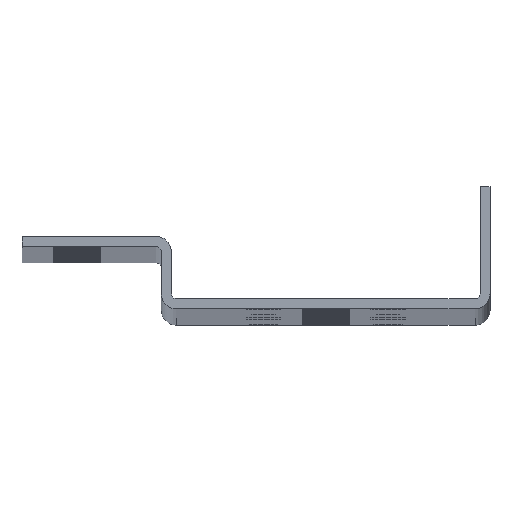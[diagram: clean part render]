
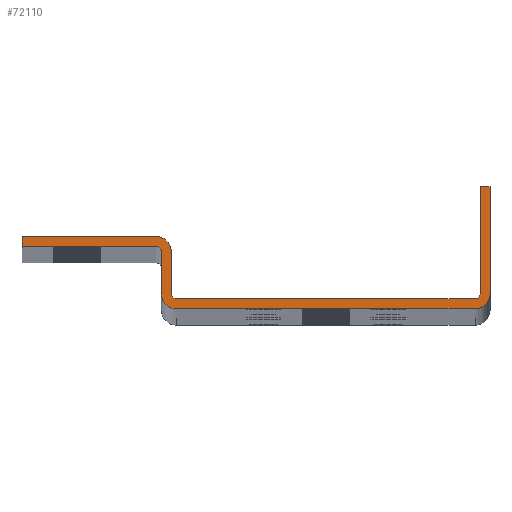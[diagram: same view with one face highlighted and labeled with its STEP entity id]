
A CAD part, top view. The second image highlights one B-rep face of the part: STEP entity #72110.
In plain terms, the highlighted planar face has unit normal (0, 0, 1).
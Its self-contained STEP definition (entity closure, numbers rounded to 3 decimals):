
#276 = CARTESIAN_POINT ( 'NONE',  ( -63., 2., 0. ) ) ;
#347 = VERTEX_POINT ( 'NONE', #26352 ) ;
#844 = EDGE_CURVE ( 'NONE', #61402, #67812, #73531, .T. ) ;
#913 = EDGE_CURVE ( 'NONE', #32787, #13218, #51179, .T. ) ;
#921 = CARTESIAN_POINT ( 'NONE',  ( -94., 14.5, 0. ) ) ;
#1122 = VECTOR ( 'NONE', #42311, 1000. ) ;
#3755 = VERTEX_POINT ( 'NONE', #72111 ) ;
#3883 = AXIS2_PLACEMENT_3D ( 'NONE', #50224, #9377, #57120 ) ;
#4047 = DIRECTION ( 'NONE',  ( 0., -1., 0. ) ) ;
#4213 = DIRECTION ( 'NONE',  ( 0., -1., 0. ) ) ;
#4360 = EDGE_CURVE ( 'NONE', #67812, #63883, #38482, .T. ) ;
#4854 = LINE ( 'NONE', #79058, #77394 ) ;
#5030 = VECTOR ( 'NONE', #82529, 1000. ) ;
#5536 = CARTESIAN_POINT ( 'NONE',  ( -64., 2., 0. ) ) ;
#6907 = EDGE_CURVE ( 'NONE', #11329, #27370, #23201, .T. ) ;
#7137 = ORIENTED_EDGE ( 'NONE', *, *, #65576, .T. ) ;
#8454 = DIRECTION ( 'NONE',  ( 0., 0., -1. ) ) ;
#8840 = ORIENTED_EDGE ( 'NONE', *, *, #844, .T. ) ;
#9182 = ORIENTED_EDGE ( 'NONE', *, *, #66441, .T. ) ;
#9377 = DIRECTION ( 'NONE',  ( 0., 0., 1. ) ) ;
#10252 = VERTEX_POINT ( 'NONE', #70628 ) ;
#11329 = VERTEX_POINT ( 'NONE', #921 ) ;
#11493 = VERTEX_POINT ( 'NONE', #30165 ) ;
#13040 = CARTESIAN_POINT ( 'NONE',  ( 0., 0., 0. ) ) ;
#13218 = VERTEX_POINT ( 'NONE', #67949 ) ;
#13767 = AXIS2_PLACEMENT_3D ( 'NONE', #55653, #53292, #52993 ) ;
#14947 = VERTEX_POINT ( 'NONE', #15887 ) ;
#15258 = DIRECTION ( 'NONE',  ( 0., 0., -1. ) ) ;
#15887 = CARTESIAN_POINT ( 'NONE',  ( -67., 14.5, 0. ) ) ;
#17491 = DIRECTION ( 'NONE',  ( 1., 0., 0. ) ) ;
#17865 = CARTESIAN_POINT ( 'NONE',  ( -2., 24.5, 0. ) ) ;
#19905 = DIRECTION ( 'NONE',  ( 0., 0., -1. ) ) ;
#20109 = CARTESIAN_POINT ( 'NONE',  ( -64., 3., 0. ) ) ;
#20875 = CARTESIAN_POINT ( 'NONE',  ( -94., 14.5, 0. ) ) ;
#23201 = LINE ( 'NONE', #20875, #5030 ) ;
#23631 = CARTESIAN_POINT ( 'NONE',  ( -2., 2., 0. ) ) ;
#23966 = AXIS2_PLACEMENT_3D ( 'NONE', #28432, #28324, #28132 ) ;
#26352 = CARTESIAN_POINT ( 'NONE',  ( -2., 24.5, 0. ) ) ;
#27370 = VERTEX_POINT ( 'NONE', #57317 ) ;
#27896 = EDGE_CURVE ( 'NONE', #14947, #11329, #63368, .T. ) ;
#28132 = DIRECTION ( 'NONE',  ( -1., 0., 0. ) ) ;
#28324 = DIRECTION ( 'NONE',  ( 0., 0., 1. ) ) ;
#28373 = CARTESIAN_POINT ( 'NONE',  ( 0., 3., 0. ) ) ;
#28432 = CARTESIAN_POINT ( 'NONE',  ( -3., 3., 0. ) ) ;
#28739 = VERTEX_POINT ( 'NONE', #20109 ) ;
#28907 = CARTESIAN_POINT ( 'NONE',  ( 0., 0., 0. ) ) ;
#29127 = CARTESIAN_POINT ( 'NONE',  ( -67., 12.5, 0. ) ) ;
#30085 = LINE ( 'NONE', #17865, #62073 ) ;
#30165 = CARTESIAN_POINT ( 'NONE',  ( 0., 24.5, 0. ) ) ;
#30373 = ORIENTED_EDGE ( 'NONE', *, *, #27896, .T. ) ;
#32497 = VERTEX_POINT ( 'NONE', #80095 ) ;
#32787 = VERTEX_POINT ( 'NONE', #29127 ) ;
#32830 = VECTOR ( 'NONE', #17491, 1000. ) ;
#34439 = ORIENTED_EDGE ( 'NONE', *, *, #53733, .T. ) ;
#34642 = AXIS2_PLACEMENT_3D ( 'NONE', #56115, #15258, #62963 ) ;
#34882 = EDGE_CURVE ( 'NONE', #27370, #32787, #50981, .T. ) ;
#35270 = LINE ( 'NONE', #28907, #1122 ) ;
#37754 = CARTESIAN_POINT ( 'NONE',  ( -66., 12.5, 0. ) ) ;
#38482 = CIRCLE ( 'NONE', #23966, 3. ) ;
#39426 = VECTOR ( 'NONE', #53281, 1000. ) ;
#39709 = DIRECTION ( 'NONE',  ( 0., 0., 1. ) ) ;
#40373 = VERTEX_POINT ( 'NONE', #276 ) ;
#41377 = ORIENTED_EDGE ( 'NONE', *, *, #71087, .T. ) ;
#42311 = DIRECTION ( 'NONE',  ( 0., 1., 0. ) ) ;
#42852 = DIRECTION ( 'NONE',  ( -1., 0., 0. ) ) ;
#43014 = ORIENTED_EDGE ( 'NONE', *, *, #56156, .T. ) ;
#43714 = LINE ( 'NONE', #5536, #39426 ) ;
#45185 = VECTOR ( 'NONE', #42852, 1000. ) ;
#46049 = ORIENTED_EDGE ( 'NONE', *, *, #913, .T. ) ;
#49296 = CARTESIAN_POINT ( 'NONE',  ( -63., 3., 0. ) ) ;
#49625 = CIRCLE ( 'NONE', #86795, 1. ) ;
#50224 = CARTESIAN_POINT ( 'NONE',  ( -63., 3., 0. ) ) ;
#50981 = LINE ( 'NONE', #37754, #32830 ) ;
#51179 = CIRCLE ( 'NONE', #13767, 1. ) ;
#51361 = DIRECTION ( 'NONE',  ( -1., 0., 0. ) ) ;
#51814 = CARTESIAN_POINT ( 'NONE',  ( -66., 0., 0. ) ) ;
#52993 = DIRECTION ( 'NONE',  ( -1., 0., 0. ) ) ;
#53281 = DIRECTION ( 'NONE',  ( 0., 1., 0. ) ) ;
#53292 = DIRECTION ( 'NONE',  ( 0., 0., -1. ) ) ;
#53733 = EDGE_CURVE ( 'NONE', #82304, #14947, #67089, .T. ) ;
#53922 = PLANE ( 'NONE',  #75474 ) ;
#54458 = CARTESIAN_POINT ( 'NONE',  ( -63., 0., 0. ) ) ;
#55289 = CIRCLE ( 'NONE', #34642, 1. ) ;
#55356 = ORIENTED_EDGE ( 'NONE', *, *, #78291, .T. ) ;
#55447 = VECTOR ( 'NONE', #65943, 1000. ) ;
#55548 = CARTESIAN_POINT ( 'NONE',  ( -64., 11.5, 0. ) ) ;
#55653 = CARTESIAN_POINT ( 'NONE',  ( -67., 11.5, 0. ) ) ;
#55799 = ORIENTED_EDGE ( 'NONE', *, *, #65436, .T. ) ;
#56115 = CARTESIAN_POINT ( 'NONE',  ( -3., 3., 0. ) ) ;
#56156 = EDGE_CURVE ( 'NONE', #3755, #61402, #68093, .T. ) ;
#56177 = DIRECTION ( 'NONE',  ( -1., 0., 0. ) ) ;
#56804 = ORIENTED_EDGE ( 'NONE', *, *, #66693, .T. ) ;
#56988 = EDGE_LOOP ( 'NONE', ( #8840, #66488, #61170, #56804, #75139, #9182, #55356, #41377, #7137, #34439, #30373, #77428, #74192, #46049, #55799, #43014 ) ) ;
#57120 = DIRECTION ( 'NONE',  ( -1., 0., 0. ) ) ;
#57317 = CARTESIAN_POINT ( 'NONE',  ( -94., 12.5, 0. ) ) ;
#57997 = LINE ( 'NONE', #23631, #73928 ) ;
#58185 = EDGE_CURVE ( 'NONE', #347, #10252, #4854, .T. ) ;
#61170 = ORIENTED_EDGE ( 'NONE', *, *, #67222, .T. ) ;
#61402 = VERTEX_POINT ( 'NONE', #54458 ) ;
#62073 = VECTOR ( 'NONE', #79268, 1000. ) ;
#62963 = DIRECTION ( 'NONE',  ( -1., 0., 0. ) ) ;
#63368 = LINE ( 'NONE', #69995, #45185 ) ;
#63883 = VERTEX_POINT ( 'NONE', #28373 ) ;
#65436 = EDGE_CURVE ( 'NONE', #13218, #3755, #68278, .T. ) ;
#65576 = EDGE_CURVE ( 'NONE', #28739, #82304, #43714, .T. ) ;
#65943 = DIRECTION ( 'NONE',  ( 1., 0., 0. ) ) ;
#66441 = EDGE_CURVE ( 'NONE', #10252, #32497, #55289, .T. ) ;
#66488 = ORIENTED_EDGE ( 'NONE', *, *, #4360, .T. ) ;
#66693 = EDGE_CURVE ( 'NONE', #11493, #347, #30085, .T. ) ;
#67089 = CIRCLE ( 'NONE', #83147, 3. ) ;
#67222 = EDGE_CURVE ( 'NONE', #63883, #11493, #35270, .T. ) ;
#67630 = DIRECTION ( 'NONE',  ( -1., 0., 0. ) ) ;
#67812 = VERTEX_POINT ( 'NONE', #75900 ) ;
#67949 = CARTESIAN_POINT ( 'NONE',  ( -66., 11.5, 0. ) ) ;
#68093 = CIRCLE ( 'NONE', #3883, 3. ) ;
#68278 = LINE ( 'NONE', #51814, #86332 ) ;
#69516 = CARTESIAN_POINT ( 'NONE',  ( 0., 0., 0. ) ) ;
#69995 = CARTESIAN_POINT ( 'NONE',  ( -64., 14.5, 0. ) ) ;
#70628 = CARTESIAN_POINT ( 'NONE',  ( -2., 3., 0. ) ) ;
#71087 = EDGE_CURVE ( 'NONE', #40373, #28739, #49625, .T. ) ;
#72110 = ADVANCED_FACE ( 'NONE', ( #72867 ), #53922, .F. ) ;
#72111 = CARTESIAN_POINT ( 'NONE',  ( -66., 3., 0. ) ) ;
#72867 = FACE_OUTER_BOUND ( 'NONE', #56988, .T. ) ;
#73531 = LINE ( 'NONE', #69516, #55447 ) ;
#73928 = VECTOR ( 'NONE', #51361, 1000. ) ;
#74192 = ORIENTED_EDGE ( 'NONE', *, *, #34882, .T. ) ;
#75139 = ORIENTED_EDGE ( 'NONE', *, *, #58185, .T. ) ;
#75474 = AXIS2_PLACEMENT_3D ( 'NONE', #13040, #19905, #67630 ) ;
#75900 = CARTESIAN_POINT ( 'NONE',  ( -3., 0., 0. ) ) ;
#77394 = VECTOR ( 'NONE', #4213, 1000. ) ;
#77428 = ORIENTED_EDGE ( 'NONE', *, *, #6907, .T. ) ;
#78291 = EDGE_CURVE ( 'NONE', #32497, #40373, #57997, .T. ) ;
#79058 = CARTESIAN_POINT ( 'NONE',  ( -2., 2., 0. ) ) ;
#79268 = DIRECTION ( 'NONE',  ( -1., 0., 0. ) ) ;
#80095 = CARTESIAN_POINT ( 'NONE',  ( -3., 2., 0. ) ) ;
#80511 = CARTESIAN_POINT ( 'NONE',  ( -67., 11.5, 0. ) ) ;
#82304 = VERTEX_POINT ( 'NONE', #55548 ) ;
#82529 = DIRECTION ( 'NONE',  ( 0., -1., 0. ) ) ;
#83147 = AXIS2_PLACEMENT_3D ( 'NONE', #80511, #39709, #87322 ) ;
#86332 = VECTOR ( 'NONE', #4047, 1000. ) ;
#86795 = AXIS2_PLACEMENT_3D ( 'NONE', #49296, #8454, #56177 ) ;
#87322 = DIRECTION ( 'NONE',  ( -1., 0., 0. ) ) ;
